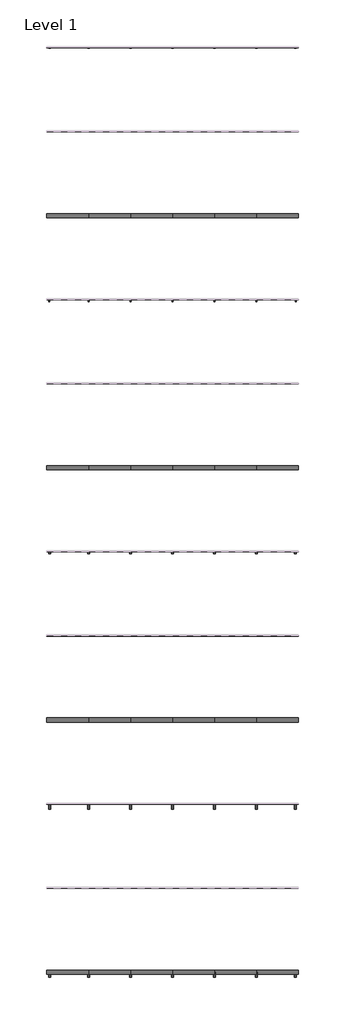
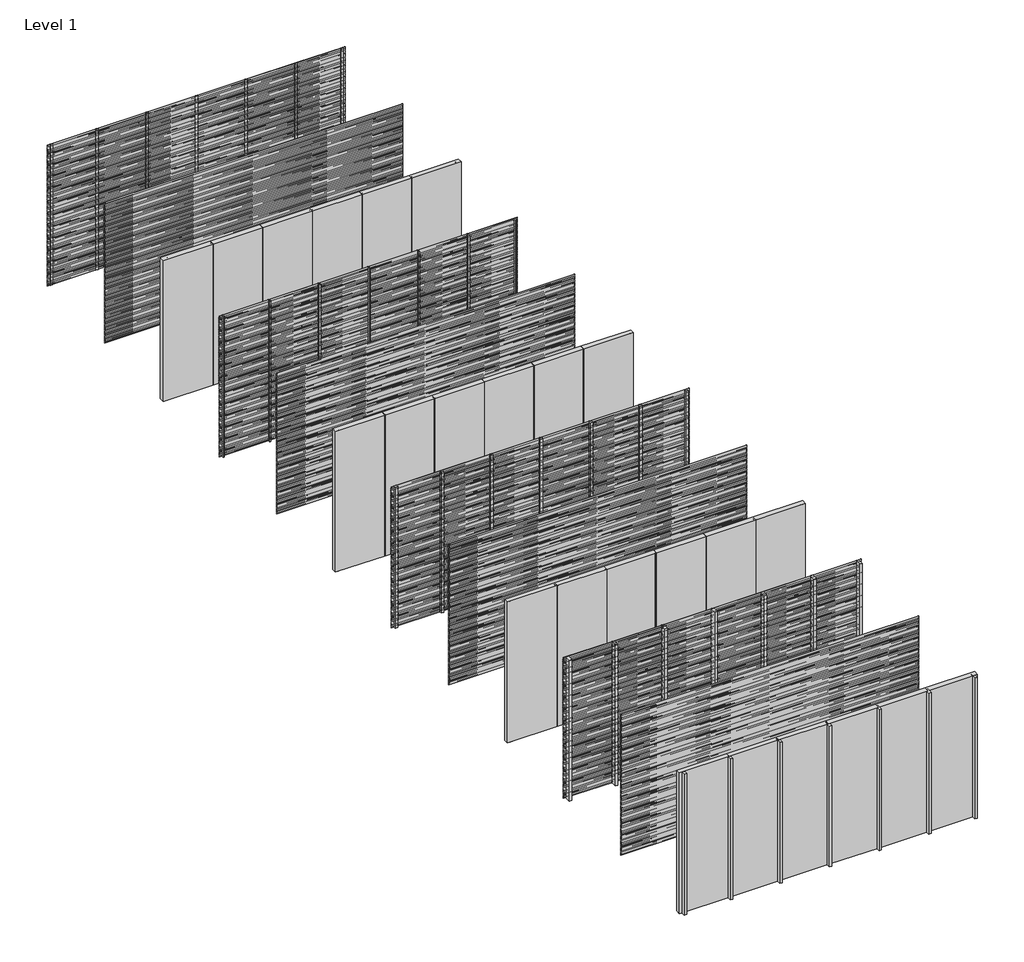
# One storey, part 1 of 25: 56 members, 52 plates, 18 proxies.
"""IFC4 building model written with IfcOpenShell, lengths in millimetres."""

from ifc_helpers import new_model, si_unit, frame, origin, origin_with_axes, place, context, project, spatial, polyline, outline, extrude, transform, mapped, element, save
from components import rectangular_mullion_bbbcbd30, rectangular_mullion_f8d4a220, rectangular_mullion_81aaf6fe, rectangular_mullion_6e08dc26, rectangular_mullion_75c52e10, rectangular_mullion_40295cf1, rectangular_mullion_7f158cb3, rectangular_mullion_66519e13, rectangular_mullion_5829b51c, rectangular_mullion_3b5b8a15, rectangular_mullion_81543344, rectangular_mullion_041a21c4, empty_system_panel_empty_e246a7f8, empty_system_panel_empty_98ea7a2b

model = new_model("IFC4")

# Units and contexts
model_context = context("Model", 3, world=origin())
ifc_project = project(units=[si_unit("LENGTHUNIT", "METRE", prefix="MILLI")], contexts=[model_context])

# Site, building, storey
site = spatial("IfcSite", under=ifc_project)
building = spatial("IfcBuilding", under=site)
storey = spatial("IfcBuildingStorey", under=building, Name="Level 1", Elevation=0.0)

# Proxies
placement = place(None, origin())
element("IfcBuildingElementProxy", 1, Name="Wall Sweeps", at=placement, inside=storey, context=model_context, shape_type="SweptSolid", body=[
    extrude(outline(polyline([(-19995.0, 2975.0), (-19995.0, 2963.942893), (-19976.0, 2948.0), (-19976.0, 2935.0), (-19997.0, 2952.6210923), (-19997.0, 2975.0), (-19995.0, 2975.0)])), frame((0.0, 0.0, 0.0), z_axis=(1.0, 0.0, 0.0), x_axis=(0.0, 1.0, 0.0)), (0.0, 0.0, 1.0), 6000.0),
])
element("IfcBuildingElementProxy", 2, Name="Wall Sweeps", at=placement, inside=storey, context=model_context, shape_type="SweptSolid", body=[
    extrude(outline(polyline([(-19995.0, 2940.0), (-19995.0, 2928.942893), (-19976.0, 2913.0), (-19976.0, 2900.0), (-19997.0, 2917.6210923), (-19997.0, 2940.0), (-19995.0, 2940.0)])), frame((0.0, 0.0, 0.0), z_axis=(1.0, 0.0, 0.0), x_axis=(0.0, 1.0, 0.0)), (0.0, 0.0, 1.0), 6000.0),
])
element("IfcBuildingElementProxy", 3, Name="Wall Sweeps", at=placement, inside=storey, context=model_context, shape_type="SweptSolid", body=[
    extrude(outline(polyline([(-19995.0, 2905.0), (-19995.0, 2893.942893), (-19976.0, 2878.0), (-19976.0, 2865.0), (-19997.0, 2882.6210923), (-19997.0, 2905.0), (-19995.0, 2905.0)])), frame((0.0, 0.0, 0.0), z_axis=(1.0, 0.0, 0.0), x_axis=(0.0, 1.0, 0.0)), (0.0, 0.0, 1.0), 6000.0),
])
element("IfcBuildingElementProxy", 4, Name="Wall Sweeps", at=placement, inside=storey, context=model_context, shape_type="SweptSolid", body=[
    extrude(outline(polyline([(-19995.0, 2870.0), (-19995.0, 2858.942893), (-19976.0, 2843.0), (-19976.0, 2830.0), (-19997.0, 2847.6210923), (-19997.0, 2870.0), (-19995.0, 2870.0)])), frame((0.0, 0.0, 0.0), z_axis=(1.0, 0.0, 0.0), x_axis=(0.0, 1.0, 0.0)), (0.0, 0.0, 1.0), 6000.0),
])
element("IfcBuildingElementProxy", 5, Name="Wall Sweeps", at=placement, inside=storey, context=model_context, shape_type="SweptSolid", body=[
    extrude(outline(polyline([(-19995.0, 2835.0), (-19995.0, 2823.942893), (-19976.0, 2808.0), (-19976.0, 2795.0), (-19997.0, 2812.6210923), (-19997.0, 2835.0), (-19995.0, 2835.0)])), frame((0.0, 0.0, 0.0), z_axis=(1.0, 0.0, 0.0), x_axis=(0.0, 1.0, 0.0)), (0.0, 0.0, 1.0), 6000.0),
])
element("IfcBuildingElementProxy", 6, Name="Wall Sweeps", at=placement, inside=storey, context=model_context, shape_type="SweptSolid", body=[
    extrude(outline(polyline([(-19995.0, 2800.0), (-19995.0, 2788.942893), (-19976.0, 2773.0), (-19976.0, 2760.0), (-19997.0, 2777.6210923), (-19997.0, 2800.0), (-19995.0, 2800.0)])), frame((0.0, 0.0, 0.0), z_axis=(1.0, 0.0, 0.0), x_axis=(0.0, 1.0, 0.0)), (0.0, 0.0, 1.0), 6000.0),
])
element("IfcBuildingElementProxy", 7, Name="Wall Sweeps", at=placement, inside=storey, context=model_context, shape_type="SweptSolid", body=[
    extrude(outline(polyline([(-19995.0, 2765.0), (-19995.0, 2753.942893), (-19976.0, 2738.0), (-19976.0, 2725.0), (-19997.0, 2742.6210923), (-19997.0, 2765.0), (-19995.0, 2765.0)])), frame((0.0, 0.0, 0.0), z_axis=(1.0, 0.0, 0.0), x_axis=(0.0, 1.0, 0.0)), (0.0, 0.0, 1.0), 6000.0),
])
element("IfcBuildingElementProxy", 8, Name="Wall Sweeps", at=placement, inside=storey, context=model_context, shape_type="SweptSolid", body=[
    extrude(outline(polyline([(-19995.0, 2730.0), (-19995.0, 2718.942893), (-19976.0, 2703.0), (-19976.0, 2690.0), (-19997.0, 2707.6210923), (-19997.0, 2730.0), (-19995.0, 2730.0)])), frame((0.0, 0.0, 0.0), z_axis=(1.0, 0.0, 0.0), x_axis=(0.0, 1.0, 0.0)), (0.0, 0.0, 1.0), 6000.0),
])
element("IfcBuildingElementProxy", 9, Name="Wall Sweeps", at=placement, inside=storey, context=model_context, shape_type="SweptSolid", body=[
    extrude(outline(polyline([(-19995.0, 2695.0), (-19995.0, 2683.942893), (-19976.0, 2668.0), (-19976.0, 2655.0), (-19997.0, 2672.6210923), (-19997.0, 2695.0), (-19995.0, 2695.0)])), frame((0.0, 0.0, 0.0), z_axis=(1.0, 0.0, 0.0), x_axis=(0.0, 1.0, 0.0)), (0.0, 0.0, 1.0), 6000.0),
])
element("IfcBuildingElementProxy", 10, Name="Wall Sweeps", at=placement, inside=storey, context=model_context, shape_type="SweptSolid", body=[
    extrude(outline(polyline([(-19995.0, 2660.0), (-19995.0, 2648.942893), (-19976.0, 2633.0), (-19976.0, 2620.0), (-19997.0, 2637.6210923), (-19997.0, 2660.0), (-19995.0, 2660.0)])), frame((0.0, 0.0, 0.0), z_axis=(1.0, 0.0, 0.0), x_axis=(0.0, 1.0, 0.0)), (0.0, 0.0, 1.0), 6000.0),
])
element("IfcBuildingElementProxy", 11, Name="Wall Sweeps", at=placement, inside=storey, context=model_context, shape_type="SweptSolid", body=[
    extrude(outline(polyline([(-19995.0, 2625.0), (-19995.0, 2613.942893), (-19976.0, 2598.0), (-19976.0, 2585.0), (-19997.0, 2602.6210923), (-19997.0, 2625.0), (-19995.0, 2625.0)])), frame((0.0, 0.0, 0.0), z_axis=(1.0, 0.0, 0.0), x_axis=(0.0, 1.0, 0.0)), (0.0, 0.0, 1.0), 6000.0),
])
element("IfcBuildingElementProxy", 12, Name="Wall Sweeps", at=placement, inside=storey, context=model_context, shape_type="SweptSolid", body=[
    extrude(outline(polyline([(-19995.0, 2590.0), (-19995.0, 2578.942893), (-19976.0, 2563.0), (-19976.0, 2550.0), (-19997.0, 2567.6210923), (-19997.0, 2590.0), (-19995.0, 2590.0)])), frame((0.0, 0.0, 0.0), z_axis=(1.0, 0.0, 0.0), x_axis=(0.0, 1.0, 0.0)), (0.0, 0.0, 1.0), 6000.0),
])
element("IfcBuildingElementProxy", 13, Name="Wall Sweeps", at=placement, inside=storey, context=model_context, shape_type="SweptSolid", body=[
    extrude(outline(polyline([(-19995.0, 2555.0), (-19995.0, 2543.942893), (-19976.0, 2528.0), (-19976.0, 2515.0), (-19997.0, 2532.6210923), (-19997.0, 2555.0), (-19995.0, 2555.0)])), frame((0.0, 0.0, 0.0), z_axis=(1.0, 0.0, 0.0), x_axis=(0.0, 1.0, 0.0)), (0.0, 0.0, 1.0), 6000.0),
])
element("IfcBuildingElementProxy", 14, Name="Wall Sweeps", at=placement, inside=storey, context=model_context, shape_type="SweptSolid", body=[
    extrude(outline(polyline([(-19995.0, 2520.0), (-19995.0, 2508.942893), (-19976.0, 2493.0), (-19976.0, 2480.0), (-19997.0, 2497.6210923), (-19997.0, 2520.0), (-19995.0, 2520.0)])), frame((0.0, 0.0, 0.0), z_axis=(1.0, 0.0, 0.0), x_axis=(0.0, 1.0, 0.0)), (0.0, 0.0, 1.0), 6000.0),
])
element("IfcBuildingElementProxy", 15, Name="Wall Sweeps", at=placement, inside=storey, context=model_context, shape_type="SweptSolid", body=[
    extrude(outline(polyline([(-19995.0, 2485.0), (-19995.0, 2473.942893), (-19976.0, 2458.0), (-19976.0, 2445.0), (-19997.0, 2462.6210923), (-19997.0, 2485.0), (-19995.0, 2485.0)])), frame((0.0, 0.0, 0.0), z_axis=(1.0, 0.0, 0.0), x_axis=(0.0, 1.0, 0.0)), (0.0, 0.0, 1.0), 6000.0),
])
element("IfcBuildingElementProxy", 16, Name="Wall Sweeps", at=placement, inside=storey, context=model_context, shape_type="SweptSolid", body=[
    extrude(outline(polyline([(-19995.0, 2450.0), (-19995.0, 2438.942893), (-19976.0, 2423.0), (-19976.0, 2410.0), (-19997.0, 2427.6210923), (-19997.0, 2450.0), (-19995.0, 2450.0)])), frame((0.0, 0.0, 0.0), z_axis=(1.0, 0.0, 0.0), x_axis=(0.0, 1.0, 0.0)), (0.0, 0.0, 1.0), 6000.0),
])
element("IfcBuildingElementProxy", 17, Name="Wall Sweeps", at=placement, inside=storey, context=model_context, shape_type="SweptSolid", body=[
    extrude(outline(polyline([(-19995.0, 2415.0), (-19995.0, 2403.942893), (-19976.0, 2388.0), (-19976.0, 2375.0), (-19997.0, 2392.6210923), (-19997.0, 2415.0), (-19995.0, 2415.0)])), frame((0.0, 0.0, 0.0), z_axis=(1.0, 0.0, 0.0), x_axis=(0.0, 1.0, 0.0)), (0.0, 0.0, 1.0), 6000.0),
])
element("IfcBuildingElementProxy", 18, Name="Wall Sweeps", at=placement, inside=storey, context=model_context, shape_type="SweptSolid", body=[
    extrude(outline(polyline([(-19995.0, 2380.0), (-19995.0, 2368.942893), (-19976.0, 2353.0), (-19976.0, 2340.0), (-19997.0, 2357.6210923), (-19997.0, 2380.0), (-19995.0, 2380.0)])), frame((0.0, 0.0, 0.0), z_axis=(1.0, 0.0, 0.0), x_axis=(0.0, 1.0, 0.0)), (0.0, 0.0, 1.0), 6000.0),
])

# Members
rectangular_mullion_shape = rectangular_mullion_bbbcbd30(model_context)
element("IfcMember", 19, ObjectType="Rectangular Mullion : RSen_21_CWM_support profile - 50x12 - left_gen_duco projects", at=placement, inside=storey, context=model_context, shape_type="MappedRepresentation", body=[
    mapped(rectangular_mullion_shape, transform((0.0, 0.0, 0.0), x_axis=(-1.0, 0.0, 0.0), y_axis=(0.0, 1.0, 0.0), z_axis=(0.0, 0.0, -1.0))),
])
element("IfcMember", 20, ObjectType="Rectangular Mullion : RSen_21_CWM_support profile - 50x12 - left_gen_duco projects", at=placement, inside=storey, context=model_context, shape_type="MappedRepresentation", body=[
    mapped(rectangular_mullion_shape, transform((0.0, -4000.0, 0.0), x_axis=(-1.0, 0.0, 0.0), y_axis=(0.0, 1.0, 0.0), z_axis=(0.0, 0.0, -1.0))),
])
rectangular_mullion_2_shape = rectangular_mullion_f8d4a220(model_context)
element("IfcMember", 21, ObjectType="Rectangular Mullion : RSen_21_CWM_support profile - 50x12 - right_gen_duco projects", at=placement, inside=storey, context=model_context, shape_type="MappedRepresentation", body=[
    mapped(rectangular_mullion_2_shape, transform((6000.0, 0.0, 3000.0), x_axis=(1.0, 0.0, 0.0), y_axis=(0.0, 1.0, 0.0), z_axis=(0.0, 0.0, 1.0))),
])
element("IfcMember", 22, ObjectType="Rectangular Mullion : RSen_21_CWM_support profile - 50x12 - right_gen_duco projects", at=placement, inside=storey, context=model_context, shape_type="MappedRepresentation", body=[
    mapped(rectangular_mullion_2_shape, transform((6000.0, -4000.0, 3000.0), x_axis=(1.0, 0.0, 0.0), y_axis=(0.0, 1.0, 0.0), z_axis=(0.0, 0.0, 1.0))),
])
rectangular_mullion_3_shape = rectangular_mullion_81aaf6fe(model_context)
element("IfcMember", 23, ObjectType="Rectangular Mullion : RSen_21_CWM_support profile - 21x50 Multi - left_gen_duco projects", at=placement, inside=storey, context=model_context, shape_type="MappedRepresentation", body=[
    mapped(rectangular_mullion_3_shape, transform((0.0, -6000.0, 0.0), x_axis=(-1.0, 0.0, 0.0), y_axis=(0.0, 1.0, 0.0), z_axis=(0.0, 0.0, -1.0))),
])
element("IfcMember", 24, ObjectType="Rectangular Mullion : RSen_21_CWM_support profile - 21x50 Multi - left_gen_duco projects", at=placement, inside=storey, context=model_context, shape_type="MappedRepresentation", body=[
    mapped(rectangular_mullion_3_shape, transform((0.0, -10000.0, 0.0), x_axis=(-1.0, 0.0, 0.0), y_axis=(0.0, 1.0, 0.0), z_axis=(0.0, 0.0, -1.0))),
])
rectangular_mullion_4_shape = rectangular_mullion_6e08dc26(model_context)
element("IfcMember", 25, ObjectType="Rectangular Mullion : RSen_21_CWM_support profile - 21x50 Multi - right_gen_duco projects", at=placement, inside=storey, context=model_context, shape_type="MappedRepresentation", body=[
    mapped(rectangular_mullion_4_shape, transform((6000.0, -6000.0, 3000.0), x_axis=(1.0, 0.0, 0.0), y_axis=(0.0, 1.0, 0.0), z_axis=(0.0, 0.0, 1.0))),
])
element("IfcMember", 26, ObjectType="Rectangular Mullion : RSen_21_CWM_support profile - 21x50 Multi - right_gen_duco projects", at=placement, inside=storey, context=model_context, shape_type="MappedRepresentation", body=[
    mapped(rectangular_mullion_4_shape, transform((6000.0, -10000.0, 3000.0), x_axis=(1.0, 0.0, 0.0), y_axis=(0.0, 1.0, 0.0), z_axis=(0.0, 0.0, 1.0))),
])
rectangular_mullion_5_shape = rectangular_mullion_75c52e10(model_context)
element("IfcMember", 27, ObjectType="Rectangular Mullion : RSen_21_CWM_support profile - 50x50 - left_gen_duco projects", at=placement, inside=storey, context=model_context, shape_type="MappedRepresentation", body=[
    mapped(rectangular_mullion_5_shape, transform((0.0, -12000.0, 0.0), x_axis=(-1.0, 0.0, 0.0), y_axis=(0.0, 1.0, 0.0), z_axis=(0.0, 0.0, -1.0))),
])
element("IfcMember", 28, ObjectType="Rectangular Mullion : RSen_21_CWM_support profile - 50x50 - left_gen_duco projects", at=placement, inside=storey, context=model_context, shape_type="MappedRepresentation", body=[
    mapped(rectangular_mullion_5_shape, transform((0.0, -16000.0, 0.0), x_axis=(-1.0, 0.0, 0.0), y_axis=(0.0, 1.0, 0.0), z_axis=(0.0, 0.0, -1.0))),
])
rectangular_mullion_6_shape = rectangular_mullion_40295cf1(model_context)
element("IfcMember", 29, ObjectType="Rectangular Mullion : RSen_21_CWM_support profile - 50x50 - right_gen_duco projects", at=placement, inside=storey, context=model_context, shape_type="MappedRepresentation", body=[
    mapped(rectangular_mullion_6_shape, transform((6000.0, -12000.0, 3000.0), x_axis=(1.0, 0.0, 0.0), y_axis=(0.0, 1.0, 0.0), z_axis=(0.0, 0.0, 1.0))),
])
element("IfcMember", 30, ObjectType="Rectangular Mullion : RSen_21_CWM_support profile - 50x50 - right_gen_duco projects", at=placement, inside=storey, context=model_context, shape_type="MappedRepresentation", body=[
    mapped(rectangular_mullion_6_shape, transform((6000.0, -16000.0, 3000.0), x_axis=(1.0, 0.0, 0.0), y_axis=(0.0, 1.0, 0.0), z_axis=(0.0, 0.0, 1.0))),
])
rectangular_mullion_7_shape = rectangular_mullion_7f158cb3(model_context)
element("IfcMember", 31, ObjectType="Rectangular Mullion : RSen_21_CWM_support profile - 50x12_gen_duco projects", at=placement, inside=storey, context=model_context, shape_type="MappedRepresentation", body=[
    mapped(rectangular_mullion_7_shape, transform((5000.0, 0.0, 0.0), x_axis=(-1.0, 0.0, 0.0), y_axis=(0.0, 1.0, 0.0), z_axis=(0.0, 0.0, -1.0))),
])
element("IfcMember", 32, ObjectType="Rectangular Mullion : RSen_21_CWM_support profile - 50x12_gen_duco projects", at=placement, inside=storey, context=model_context, shape_type="MappedRepresentation", body=[
    mapped(rectangular_mullion_7_shape, transform((4000.0, 0.0, 0.0), x_axis=(-1.0, 0.0, 0.0), y_axis=(0.0, 1.0, 0.0), z_axis=(0.0, 0.0, -1.0))),
])
element("IfcMember", 33, ObjectType="Rectangular Mullion : RSen_21_CWM_support profile - 50x12_gen_duco projects", at=placement, inside=storey, context=model_context, shape_type="MappedRepresentation", body=[
    mapped(rectangular_mullion_7_shape, transform((3000.0, 0.0, 0.0), x_axis=(-1.0, 0.0, 0.0), y_axis=(0.0, 1.0, 0.0), z_axis=(0.0, 0.0, -1.0))),
])
element("IfcMember", 34, ObjectType="Rectangular Mullion : RSen_21_CWM_support profile - 50x12_gen_duco projects", at=placement, inside=storey, context=model_context, shape_type="MappedRepresentation", body=[
    mapped(rectangular_mullion_7_shape, transform((2000.0, 0.0, 0.0), x_axis=(-1.0, 0.0, 0.0), y_axis=(0.0, 1.0, 0.0), z_axis=(0.0, 0.0, -1.0))),
])
element("IfcMember", 35, ObjectType="Rectangular Mullion : RSen_21_CWM_support profile - 50x12_gen_duco projects", at=placement, inside=storey, context=model_context, shape_type="MappedRepresentation", body=[
    mapped(rectangular_mullion_7_shape, transform((1000.0, 0.0, 0.0), x_axis=(-1.0, 0.0, 0.0), y_axis=(0.0, 1.0, 0.0), z_axis=(0.0, 0.0, -1.0))),
])
element("IfcMember", 36, ObjectType="Rectangular Mullion : RSen_21_CWM_support profile - 50x12_gen_duco projects", at=placement, inside=storey, context=model_context, shape_type="MappedRepresentation", body=[
    mapped(rectangular_mullion_7_shape, transform((5000.0, -4000.0, 0.0), x_axis=(-1.0, 0.0, 0.0), y_axis=(0.0, 1.0, 0.0), z_axis=(0.0, 0.0, -1.0))),
])
element("IfcMember", 37, ObjectType="Rectangular Mullion : RSen_21_CWM_support profile - 50x12_gen_duco projects", at=placement, inside=storey, context=model_context, shape_type="MappedRepresentation", body=[
    mapped(rectangular_mullion_7_shape, transform((4000.0, -4000.0, 0.0), x_axis=(-1.0, 0.0, 0.0), y_axis=(0.0, 1.0, 0.0), z_axis=(0.0, 0.0, -1.0))),
])
element("IfcMember", 38, ObjectType="Rectangular Mullion : RSen_21_CWM_support profile - 50x12_gen_duco projects", at=placement, inside=storey, context=model_context, shape_type="MappedRepresentation", body=[
    mapped(rectangular_mullion_7_shape, transform((3000.0, -4000.0, 0.0), x_axis=(-1.0, 0.0, 0.0), y_axis=(0.0, 1.0, 0.0), z_axis=(0.0, 0.0, -1.0))),
])
element("IfcMember", 39, ObjectType="Rectangular Mullion : RSen_21_CWM_support profile - 50x12_gen_duco projects", at=placement, inside=storey, context=model_context, shape_type="MappedRepresentation", body=[
    mapped(rectangular_mullion_7_shape, transform((2000.0, -4000.0, 0.0), x_axis=(-1.0, 0.0, 0.0), y_axis=(0.0, 1.0, 0.0), z_axis=(0.0, 0.0, -1.0))),
])
element("IfcMember", 40, ObjectType="Rectangular Mullion : RSen_21_CWM_support profile - 50x12_gen_duco projects", at=placement, inside=storey, context=model_context, shape_type="MappedRepresentation", body=[
    mapped(rectangular_mullion_7_shape, transform((1000.0, -4000.0, 0.0), x_axis=(-1.0, 0.0, 0.0), y_axis=(0.0, 1.0, 0.0), z_axis=(0.0, 0.0, -1.0))),
])
rectangular_mullion_8_shape = rectangular_mullion_66519e13(model_context)
element("IfcMember", 41, ObjectType="Rectangular Mullion : RSen_21_CWM_support profile - 21x50 Multi_gen_duco projects", at=placement, inside=storey, context=model_context, shape_type="MappedRepresentation", body=[
    mapped(rectangular_mullion_8_shape, transform((5000.0, -6000.0, 0.0), x_axis=(-1.0, 0.0, 0.0), y_axis=(0.0, 1.0, 0.0), z_axis=(0.0, 0.0, -1.0))),
])
element("IfcMember", 42, ObjectType="Rectangular Mullion : RSen_21_CWM_support profile - 21x50 Multi_gen_duco projects", at=placement, inside=storey, context=model_context, shape_type="MappedRepresentation", body=[
    mapped(rectangular_mullion_8_shape, transform((4000.0, -6000.0, 0.0), x_axis=(-1.0, 0.0, 0.0), y_axis=(0.0, 1.0, 0.0), z_axis=(0.0, 0.0, -1.0))),
])
element("IfcMember", 43, ObjectType="Rectangular Mullion : RSen_21_CWM_support profile - 21x50 Multi_gen_duco projects", at=placement, inside=storey, context=model_context, shape_type="MappedRepresentation", body=[
    mapped(rectangular_mullion_8_shape, transform((3000.0, -6000.0, 0.0), x_axis=(-1.0, 0.0, 0.0), y_axis=(0.0, 1.0, 0.0), z_axis=(0.0, 0.0, -1.0))),
])
element("IfcMember", 44, ObjectType="Rectangular Mullion : RSen_21_CWM_support profile - 21x50 Multi_gen_duco projects", at=placement, inside=storey, context=model_context, shape_type="MappedRepresentation", body=[
    mapped(rectangular_mullion_8_shape, transform((2000.0, -6000.0, 0.0), x_axis=(-1.0, 0.0, 0.0), y_axis=(0.0, 1.0, 0.0), z_axis=(0.0, 0.0, -1.0))),
])
element("IfcMember", 45, ObjectType="Rectangular Mullion : RSen_21_CWM_support profile - 21x50 Multi_gen_duco projects", at=placement, inside=storey, context=model_context, shape_type="MappedRepresentation", body=[
    mapped(rectangular_mullion_8_shape, transform((1000.0, -6000.0, 0.0), x_axis=(-1.0, 0.0, 0.0), y_axis=(0.0, 1.0, 0.0), z_axis=(0.0, 0.0, -1.0))),
])
element("IfcMember", 46, ObjectType="Rectangular Mullion : RSen_21_CWM_support profile - 21x50 Multi_gen_duco projects", at=placement, inside=storey, context=model_context, shape_type="MappedRepresentation", body=[
    mapped(rectangular_mullion_8_shape, transform((5000.0, -10000.0, 0.0), x_axis=(-1.0, 0.0, 0.0), y_axis=(0.0, 1.0, 0.0), z_axis=(0.0, 0.0, -1.0))),
])
element("IfcMember", 47, ObjectType="Rectangular Mullion : RSen_21_CWM_support profile - 21x50 Multi_gen_duco projects", at=placement, inside=storey, context=model_context, shape_type="MappedRepresentation", body=[
    mapped(rectangular_mullion_8_shape, transform((4000.0, -10000.0, 0.0), x_axis=(-1.0, 0.0, 0.0), y_axis=(0.0, 1.0, 0.0), z_axis=(0.0, 0.0, -1.0))),
])
element("IfcMember", 48, ObjectType="Rectangular Mullion : RSen_21_CWM_support profile - 21x50 Multi_gen_duco projects", at=placement, inside=storey, context=model_context, shape_type="MappedRepresentation", body=[
    mapped(rectangular_mullion_8_shape, transform((3000.0, -10000.0, 0.0), x_axis=(-1.0, 0.0, 0.0), y_axis=(0.0, 1.0, 0.0), z_axis=(0.0, 0.0, -1.0))),
])
element("IfcMember", 49, ObjectType="Rectangular Mullion : RSen_21_CWM_support profile - 21x50 Multi_gen_duco projects", at=placement, inside=storey, context=model_context, shape_type="MappedRepresentation", body=[
    mapped(rectangular_mullion_8_shape, transform((2000.0, -10000.0, 0.0), x_axis=(-1.0, 0.0, 0.0), y_axis=(0.0, 1.0, 0.0), z_axis=(0.0, 0.0, -1.0))),
])
element("IfcMember", 50, ObjectType="Rectangular Mullion : RSen_21_CWM_support profile - 21x50 Multi_gen_duco projects", at=placement, inside=storey, context=model_context, shape_type="MappedRepresentation", body=[
    mapped(rectangular_mullion_8_shape, transform((1000.0, -10000.0, 0.0), x_axis=(-1.0, 0.0, 0.0), y_axis=(0.0, 1.0, 0.0), z_axis=(0.0, 0.0, -1.0))),
])
rectangular_mullion_9_shape = rectangular_mullion_5829b51c(model_context)
element("IfcMember", 51, ObjectType="Rectangular Mullion : RSen_21_CWM_support profile - 50x50_gen_duco projects", at=placement, inside=storey, context=model_context, shape_type="MappedRepresentation", body=[
    mapped(rectangular_mullion_9_shape, transform((5000.0, -12000.0, 0.0), x_axis=(-1.0, 0.0, 0.0), y_axis=(0.0, 1.0, 0.0), z_axis=(0.0, 0.0, -1.0))),
])
element("IfcMember", 52, ObjectType="Rectangular Mullion : RSen_21_CWM_support profile - 50x50_gen_duco projects", at=placement, inside=storey, context=model_context, shape_type="MappedRepresentation", body=[
    mapped(rectangular_mullion_9_shape, transform((4000.0, -12000.0, 0.0), x_axis=(-1.0, 0.0, 0.0), y_axis=(0.0, 1.0, 0.0), z_axis=(0.0, 0.0, -1.0))),
])
element("IfcMember", 53, ObjectType="Rectangular Mullion : RSen_21_CWM_support profile - 50x50_gen_duco projects", at=placement, inside=storey, context=model_context, shape_type="MappedRepresentation", body=[
    mapped(rectangular_mullion_9_shape, transform((3000.0, -12000.0, 0.0), x_axis=(-1.0, 0.0, 0.0), y_axis=(0.0, 1.0, 0.0), z_axis=(0.0, 0.0, -1.0))),
])
element("IfcMember", 54, ObjectType="Rectangular Mullion : RSen_21_CWM_support profile - 50x50_gen_duco projects", at=placement, inside=storey, context=model_context, shape_type="MappedRepresentation", body=[
    mapped(rectangular_mullion_9_shape, transform((2000.0, -12000.0, 0.0), x_axis=(-1.0, 0.0, 0.0), y_axis=(0.0, 1.0, 0.0), z_axis=(0.0, 0.0, -1.0))),
])
element("IfcMember", 55, ObjectType="Rectangular Mullion : RSen_21_CWM_support profile - 50x50_gen_duco projects", at=placement, inside=storey, context=model_context, shape_type="MappedRepresentation", body=[
    mapped(rectangular_mullion_9_shape, transform((1000.0, -12000.0, 0.0), x_axis=(-1.0, 0.0, 0.0), y_axis=(0.0, 1.0, 0.0), z_axis=(0.0, 0.0, -1.0))),
])
element("IfcMember", 56, ObjectType="Rectangular Mullion : RSen_21_CWM_support profile - 50x50_gen_duco projects", at=placement, inside=storey, context=model_context, shape_type="MappedRepresentation", body=[
    mapped(rectangular_mullion_9_shape, transform((5000.0, -16000.0, 0.0), x_axis=(-1.0, 0.0, 0.0), y_axis=(0.0, 1.0, 0.0), z_axis=(0.0, 0.0, -1.0))),
])
element("IfcMember", 57, ObjectType="Rectangular Mullion : RSen_21_CWM_support profile - 50x50_gen_duco projects", at=placement, inside=storey, context=model_context, shape_type="MappedRepresentation", body=[
    mapped(rectangular_mullion_9_shape, transform((4000.0, -16000.0, 0.0), x_axis=(-1.0, 0.0, 0.0), y_axis=(0.0, 1.0, 0.0), z_axis=(0.0, 0.0, -1.0))),
])
element("IfcMember", 58, ObjectType="Rectangular Mullion : RSen_21_CWM_support profile - 50x50_gen_duco projects", at=placement, inside=storey, context=model_context, shape_type="MappedRepresentation", body=[
    mapped(rectangular_mullion_9_shape, transform((3000.0, -16000.0, 0.0), x_axis=(-1.0, 0.0, 0.0), y_axis=(0.0, 1.0, 0.0), z_axis=(0.0, 0.0, -1.0))),
])
element("IfcMember", 59, ObjectType="Rectangular Mullion : RSen_21_CWM_support profile - 50x50_gen_duco projects", at=placement, inside=storey, context=model_context, shape_type="MappedRepresentation", body=[
    mapped(rectangular_mullion_9_shape, transform((2000.0, -16000.0, 0.0), x_axis=(-1.0, 0.0, 0.0), y_axis=(0.0, 1.0, 0.0), z_axis=(0.0, 0.0, -1.0))),
])
element("IfcMember", 60, ObjectType="Rectangular Mullion : RSen_21_CWM_support profile - 50x50_gen_duco projects", at=placement, inside=storey, context=model_context, shape_type="MappedRepresentation", body=[
    mapped(rectangular_mullion_9_shape, transform((1000.0, -16000.0, 0.0), x_axis=(-1.0, 0.0, 0.0), y_axis=(0.0, 1.0, 0.0), z_axis=(0.0, 0.0, -1.0))),
])
rectangular_mullion_10_shape = rectangular_mullion_3b5b8a15(model_context)
element("IfcMember", 61, ObjectType="Rectangular Mullion : RSen_21_CWM_support profile - 50x125_gen_duco projects", at=placement, inside=storey, context=model_context, shape_type="MappedRepresentation", body=[
    mapped(rectangular_mullion_10_shape, transform((1000.0000002, -18000.0, 0.0), x_axis=(1.0, 0.0, 0.0), y_axis=(0.0, -1.0, 0.0), z_axis=(0.0, 0.0, -1.0))),
])
element("IfcMember", 62, ObjectType="Rectangular Mullion : RSen_21_CWM_support profile - 50x125_gen_duco projects", at=placement, inside=storey, context=model_context, shape_type="MappedRepresentation", body=[
    mapped(rectangular_mullion_10_shape, transform((2000.0000001, -18000.0, 0.0), x_axis=(1.0, 0.0, 0.0), y_axis=(0.0, -1.0, 0.0), z_axis=(0.0, 0.0, -1.0))),
])
element("IfcMember", 63, ObjectType="Rectangular Mullion : RSen_21_CWM_support profile - 50x125_gen_duco projects", at=placement, inside=storey, context=model_context, shape_type="MappedRepresentation", body=[
    mapped(rectangular_mullion_10_shape, transform((3000.0, -18000.0, 0.0), x_axis=(1.0, 0.0, 0.0), y_axis=(0.0, -1.0, 0.0), z_axis=(0.0, 0.0, -1.0))),
])
element("IfcMember", 64, ObjectType="Rectangular Mullion : RSen_21_CWM_support profile - 50x125_gen_duco projects", at=placement, inside=storey, context=model_context, shape_type="MappedRepresentation", body=[
    mapped(rectangular_mullion_10_shape, transform((3999.9999999, -18000.0, 0.0), x_axis=(1.0, 0.0, 0.0), y_axis=(0.0, -1.0, 0.0), z_axis=(0.0, 0.0, -1.0))),
])
element("IfcMember", 65, ObjectType="Rectangular Mullion : RSen_21_CWM_support profile - 50x125_gen_duco projects", at=placement, inside=storey, context=model_context, shape_type="MappedRepresentation", body=[
    mapped(rectangular_mullion_10_shape, transform((4999.9999998, -18000.0, 0.0), x_axis=(1.0, 0.0, 0.0), y_axis=(0.0, -1.0, 0.0), z_axis=(0.0, 0.0, -1.0))),
])
element("IfcMember", 66, ObjectType="Rectangular Mullion : RSen_21_CWM_support profile - 50x125_gen_duco projects", at=placement, inside=storey, context=model_context, shape_type="MappedRepresentation", body=[
    mapped(rectangular_mullion_10_shape, transform((1000.0000002, -22000.0, 0.0), x_axis=(1.0, 0.0, 0.0), y_axis=(0.0, -1.0, 0.0), z_axis=(0.0, 0.0, -1.0))),
])
element("IfcMember", 67, ObjectType="Rectangular Mullion : RSen_21_CWM_support profile - 50x125_gen_duco projects", at=placement, inside=storey, context=model_context, shape_type="MappedRepresentation", body=[
    mapped(rectangular_mullion_10_shape, transform((2000.0000001, -22000.0, 0.0), x_axis=(1.0, 0.0, 0.0), y_axis=(0.0, -1.0, 0.0), z_axis=(0.0, 0.0, -1.0))),
])
element("IfcMember", 68, ObjectType="Rectangular Mullion : RSen_21_CWM_support profile - 50x125_gen_duco projects", at=placement, inside=storey, context=model_context, shape_type="MappedRepresentation", body=[
    mapped(rectangular_mullion_10_shape, transform((3000.0, -22000.0, 0.0), x_axis=(1.0, 0.0, 0.0), y_axis=(0.0, -1.0, 0.0), z_axis=(0.0, 0.0, -1.0))),
])
element("IfcMember", 69, ObjectType="Rectangular Mullion : RSen_21_CWM_support profile - 50x125_gen_duco projects", at=placement, inside=storey, context=model_context, shape_type="MappedRepresentation", body=[
    mapped(rectangular_mullion_10_shape, transform((3999.9999999, -22000.0, 0.0), x_axis=(1.0, 0.0, 0.0), y_axis=(0.0, -1.0, 0.0), z_axis=(0.0, 0.0, -1.0))),
])
element("IfcMember", 70, ObjectType="Rectangular Mullion : RSen_21_CWM_support profile - 50x125_gen_duco projects", at=placement, inside=storey, context=model_context, shape_type="MappedRepresentation", body=[
    mapped(rectangular_mullion_10_shape, transform((4999.9999998, -22000.0, 0.0), x_axis=(1.0, 0.0, 0.0), y_axis=(0.0, -1.0, 0.0), z_axis=(0.0, 0.0, -1.0))),
])
rectangular_mullion_11_shape = rectangular_mullion_81543344(model_context)
element("IfcMember", 71, ObjectType="Rectangular Mullion : RSen_21_CWM_support profile - 50x125 - left_gen_duco projects", at=placement, inside=storey, context=model_context, shape_type="MappedRepresentation", body=[
    mapped(rectangular_mullion_11_shape, transform((6000.0, -18000.0, 0.0), x_axis=(1.0, 0.0, 0.0), y_axis=(0.0, -1.0, 0.0), z_axis=(0.0, 0.0, -1.0))),
])
element("IfcMember", 72, ObjectType="Rectangular Mullion : RSen_21_CWM_support profile - 50x125 - left_gen_duco projects", at=placement, inside=storey, context=model_context, shape_type="MappedRepresentation", body=[
    mapped(rectangular_mullion_11_shape, transform((6000.0, -22000.0, 0.0), x_axis=(1.0, 0.0, 0.0), y_axis=(0.0, -1.0, 0.0), z_axis=(0.0, 0.0, -1.0))),
])
rectangular_mullion_12_shape = rectangular_mullion_041a21c4(model_context)
element("IfcMember", 73, ObjectType="Rectangular Mullion : RSen_21_CWM_support profile - 50x125 - right_gen_duco projects", at=placement, inside=storey, context=model_context, shape_type="MappedRepresentation", body=[
    mapped(rectangular_mullion_12_shape, transform((0.0, -18000.0, 3000.0), x_axis=(-1.0, 0.0, 0.0), y_axis=(0.0, -1.0, 0.0), z_axis=(0.0, 0.0, 1.0))),
])
element("IfcMember", 74, ObjectType="Rectangular Mullion : RSen_21_CWM_support profile - 50x125 - right_gen_duco projects", at=placement, inside=storey, context=model_context, shape_type="MappedRepresentation", body=[
    mapped(rectangular_mullion_12_shape, transform((0.0, -22000.0, 3000.0), x_axis=(-1.0, 0.0, 0.0), y_axis=(0.0, -1.0, 0.0), z_axis=(0.0, 0.0, 1.0))),
])

# Plates
element("IfcPlate", 75, ObjectType="RSen_21_WA_louvre blade classic W 20Z_gen_duco projects", at=placement, inside=storey, context=model_context, shape_type="SweptSolid", body=[
    extrude(outline(polyline([(0.0, 1.0), (1000.0, 1.0), (1000.0, -1.0), (0.0, -1.0), (0.0, 1.0)])), origin_with_axes(), (0.0, 0.0, 1.0), 3000.0),
])
element("IfcPlate", 76, ObjectType="RSen_21_WA_louvre blade classic W 20Z_gen_duco projects", at=placement, inside=storey, context=model_context, shape_type="SweptSolid", body=[
    extrude(outline(polyline([(1000.0, 1.0), (2000.0, 1.0), (2000.0, -1.0), (1000.0, -1.0), (1000.0, 1.0)])), origin_with_axes(), (0.0, 0.0, 1.0), 3000.0),
])
element("IfcPlate", 77, ObjectType="RSen_21_WA_louvre blade classic W 20Z_gen_duco projects", at=placement, inside=storey, context=model_context, shape_type="SweptSolid", body=[
    extrude(outline(polyline([(2000.0, 1.0), (3000.0, 1.0), (3000.0, -1.0), (2000.0, -1.0), (2000.0, 1.0)])), origin_with_axes(), (0.0, 0.0, 1.0), 3000.0),
])
element("IfcPlate", 78, ObjectType="RSen_21_WA_louvre blade classic W 20Z_gen_duco projects", at=placement, inside=storey, context=model_context, shape_type="SweptSolid", body=[
    extrude(outline(polyline([(3000.0, 1.0), (4000.0, 1.0), (4000.0, -1.0), (3000.0, -1.0), (3000.0, 1.0)])), origin_with_axes(), (0.0, 0.0, 1.0), 3000.0),
])
element("IfcPlate", 79, ObjectType="RSen_21_WA_louvre blade classic W 20Z_gen_duco projects", at=placement, inside=storey, context=model_context, shape_type="SweptSolid", body=[
    extrude(outline(polyline([(4000.0, 1.0), (5000.0, 1.0), (5000.0, -1.0), (4000.0, -1.0), (4000.0, 1.0)])), origin_with_axes(), (0.0, 0.0, 1.0), 3000.0),
])
element("IfcPlate", 80, ObjectType="RSen_21_WA_louvre blade classic W 20Z_gen_duco projects", at=placement, inside=storey, context=model_context, shape_type="SweptSolid", body=[
    extrude(outline(polyline([(5000.0, 1.0), (6000.0, 1.0), (6000.0, -1.0), (5000.0, -1.0), (5000.0, 1.0)])), origin_with_axes(), (0.0, 0.0, 1.0), 3000.0),
])
element("IfcPlate", 81, ObjectType="RSen_21_WA_louvre blade classic W 20Z_gen_duco projects", at=placement, inside=storey, context=model_context, shape_type="SweptSolid", body=[
    extrude(outline(polyline([(0.0, -1999.0), (6000.0, -1999.0), (6000.0, -2001.0), (0.0, -2001.0), (0.0, -1999.0)])), origin_with_axes(), (0.0, 0.0, 1.0), 3000.0),
])
element("IfcPlate", 82, ObjectType="RSen_21_WA_louvre blade classic W 20Z_gen_duco projects", at=placement, inside=storey, context=model_context, shape_type="SweptSolid", body=[
    extrude(outline(polyline([(0.0, -5999.0), (1000.0, -5999.0), (1000.0, -6001.0), (0.0, -6001.0), (0.0, -5999.0)])), origin_with_axes(), (0.0, 0.0, 1.0), 3000.0),
])
element("IfcPlate", 83, ObjectType="RSen_21_WA_louvre blade classic W 20Z_gen_duco projects", at=placement, inside=storey, context=model_context, shape_type="SweptSolid", body=[
    extrude(outline(polyline([(1000.0, -5999.0), (2000.0, -5999.0), (2000.0, -6001.0), (1000.0, -6001.0), (1000.0, -5999.0)])), origin_with_axes(), (0.0, 0.0, 1.0), 3000.0),
])
element("IfcPlate", 84, ObjectType="RSen_21_WA_louvre blade classic W 20Z_gen_duco projects", at=placement, inside=storey, context=model_context, shape_type="SweptSolid", body=[
    extrude(outline(polyline([(2000.0, -5999.0), (3000.0, -5999.0), (3000.0, -6001.0), (2000.0, -6001.0), (2000.0, -5999.0)])), origin_with_axes(), (0.0, 0.0, 1.0), 3000.0),
])
element("IfcPlate", 85, ObjectType="RSen_21_WA_louvre blade classic W 20Z_gen_duco projects", at=placement, inside=storey, context=model_context, shape_type="SweptSolid", body=[
    extrude(outline(polyline([(3000.0, -5999.0), (4000.0, -5999.0), (4000.0, -6001.0), (3000.0, -6001.0), (3000.0, -5999.0)])), origin_with_axes(), (0.0, 0.0, 1.0), 3000.0),
])
element("IfcPlate", 86, ObjectType="RSen_21_WA_louvre blade classic W 20Z_gen_duco projects", at=placement, inside=storey, context=model_context, shape_type="SweptSolid", body=[
    extrude(outline(polyline([(4000.0, -5999.0), (5000.0, -5999.0), (5000.0, -6001.0), (4000.0, -6001.0), (4000.0, -5999.0)])), origin_with_axes(), (0.0, 0.0, 1.0), 3000.0),
])
element("IfcPlate", 87, ObjectType="RSen_21_WA_louvre blade classic W 20Z_gen_duco projects", at=placement, inside=storey, context=model_context, shape_type="SweptSolid", body=[
    extrude(outline(polyline([(5000.0, -5999.0), (6000.0, -5999.0), (6000.0, -6001.0), (5000.0, -6001.0), (5000.0, -5999.0)])), origin_with_axes(), (0.0, 0.0, 1.0), 3000.0),
])
element("IfcPlate", 88, ObjectType="RSen_21_WA_louvre blade classic W 20Z_gen_duco projects", at=placement, inside=storey, context=model_context, shape_type="SweptSolid", body=[
    extrude(outline(polyline([(0.0, -7999.0), (6000.0, -7999.0), (6000.0, -8001.0), (0.0, -8001.0), (0.0, -7999.0)])), origin_with_axes(), (0.0, 0.0, 1.0), 3000.0),
])
element("IfcPlate", 89, ObjectType="RSen_21_WA_louvre blade classic W 20Z_gen_duco projects", at=placement, inside=storey, context=model_context, shape_type="SweptSolid", body=[
    extrude(outline(polyline([(0.0, -11999.0), (1000.0, -11999.0), (1000.0, -12001.0), (0.0, -12001.0), (0.0, -11999.0)])), origin_with_axes(), (0.0, 0.0, 1.0), 3000.0),
])
element("IfcPlate", 90, ObjectType="RSen_21_WA_louvre blade classic W 20Z_gen_duco projects", at=placement, inside=storey, context=model_context, shape_type="SweptSolid", body=[
    extrude(outline(polyline([(1000.0, -11999.0), (2000.0, -11999.0), (2000.0, -12001.0), (1000.0, -12001.0), (1000.0, -11999.0)])), origin_with_axes(), (0.0, 0.0, 1.0), 3000.0),
])
element("IfcPlate", 91, ObjectType="RSen_21_WA_louvre blade classic W 20Z_gen_duco projects", at=placement, inside=storey, context=model_context, shape_type="SweptSolid", body=[
    extrude(outline(polyline([(2000.0, -11999.0), (3000.0, -11999.0), (3000.0, -12001.0), (2000.0, -12001.0), (2000.0, -11999.0)])), origin_with_axes(), (0.0, 0.0, 1.0), 3000.0),
])
element("IfcPlate", 92, ObjectType="RSen_21_WA_louvre blade classic W 20Z_gen_duco projects", at=placement, inside=storey, context=model_context, shape_type="SweptSolid", body=[
    extrude(outline(polyline([(3000.0, -11999.0), (4000.0, -11999.0), (4000.0, -12001.0), (3000.0, -12001.0), (3000.0, -11999.0)])), origin_with_axes(), (0.0, 0.0, 1.0), 3000.0),
])
element("IfcPlate", 93, ObjectType="RSen_21_WA_louvre blade classic W 20Z_gen_duco projects", at=placement, inside=storey, context=model_context, shape_type="SweptSolid", body=[
    extrude(outline(polyline([(4000.0, -11999.0), (5000.0, -11999.0), (5000.0, -12001.0), (4000.0, -12001.0), (4000.0, -11999.0)])), origin_with_axes(), (0.0, 0.0, 1.0), 3000.0),
])
element("IfcPlate", 94, ObjectType="RSen_21_WA_louvre blade classic W 20Z_gen_duco projects", at=placement, inside=storey, context=model_context, shape_type="SweptSolid", body=[
    extrude(outline(polyline([(5000.0, -11999.0), (6000.0, -11999.0), (6000.0, -12001.0), (5000.0, -12001.0), (5000.0, -11999.0)])), origin_with_axes(), (0.0, 0.0, 1.0), 3000.0),
])
element("IfcPlate", 95, ObjectType="RSen_21_WA_louvre blade classic W 20Z_gen_duco projects", at=placement, inside=storey, context=model_context, shape_type="SweptSolid", body=[
    extrude(outline(polyline([(0.0, -13999.0), (6000.0, -13999.0), (6000.0, -14001.0), (0.0, -14001.0), (0.0, -13999.0)])), origin_with_axes(), (0.0, 0.0, 1.0), 3000.0),
])
element("IfcPlate", 96, ObjectType="RSen_21_WA_louvre blade classic W 20Z_gen_duco projects", at=placement, inside=storey, context=model_context, shape_type="SweptSolid", body=[
    extrude(outline(polyline([(6000.0, -18001.0), (4999.9999998, -18001.0), (4999.9999998, -17999.0), (6000.0, -17999.0), (6000.0, -18001.0)])), origin_with_axes(), (0.0, 0.0, 1.0), 3000.0),
])
element("IfcPlate", 97, ObjectType="RSen_21_WA_louvre blade classic W 20Z_gen_duco projects", at=placement, inside=storey, context=model_context, shape_type="SweptSolid", body=[
    extrude(outline(polyline([(4999.9999998, -18001.0), (3999.9999999, -18001.0), (3999.9999999, -17999.0), (4999.9999998, -17999.0), (4999.9999998, -18001.0)])), origin_with_axes(), (0.0, 0.0, 1.0), 3000.0),
])
element("IfcPlate", 98, ObjectType="RSen_21_WA_louvre blade classic W 20Z_gen_duco projects", at=placement, inside=storey, context=model_context, shape_type="SweptSolid", body=[
    extrude(outline(polyline([(3999.9999999, -18001.0), (3000.0, -18001.0), (3000.0, -17999.0), (3999.9999999, -17999.0), (3999.9999999, -18001.0)])), origin_with_axes(), (0.0, 0.0, 1.0), 3000.0),
])
element("IfcPlate", 99, ObjectType="RSen_21_WA_louvre blade classic W 20Z_gen_duco projects", at=placement, inside=storey, context=model_context, shape_type="SweptSolid", body=[
    extrude(outline(polyline([(3000.0, -18001.0), (2000.0000001, -18001.0), (2000.0000001, -17999.0), (3000.0, -17999.0), (3000.0, -18001.0)])), origin_with_axes(), (0.0, 0.0, 1.0), 3000.0),
])
element("IfcPlate", 100, ObjectType="RSen_21_WA_louvre blade classic W 20Z_gen_duco projects", at=placement, inside=storey, context=model_context, shape_type="SweptSolid", body=[
    extrude(outline(polyline([(2000.0000001, -18001.0), (1000.0000002, -18001.0), (1000.0000002, -17999.0), (2000.0000001, -17999.0), (2000.0000001, -18001.0)])), origin_with_axes(), (0.0, 0.0, 1.0), 3000.0),
])
element("IfcPlate", 101, ObjectType="RSen_21_WA_louvre blade classic W 20Z_gen_duco projects", at=placement, inside=storey, context=model_context, shape_type="SweptSolid", body=[
    extrude(outline(polyline([(1000.0000002, -18001.0), (0.0, -18001.0), (0.0, -17999.0), (1000.0000002, -17999.0), (1000.0000002, -18001.0)])), origin_with_axes(), (0.0, 0.0, 1.0), 3000.0),
])
element("IfcPlate", 102, ObjectType="RSen_21_WA_louvre blade classic W 20Z_gen_duco projects", at=placement, inside=storey, context=model_context, shape_type="SweptSolid", body=[
    extrude(outline(polyline([(6000.0, -20001.0), (0.0, -20001.0), (0.0, -19999.0), (6000.0, -19999.0), (6000.0, -20001.0)])), origin_with_axes(), (0.0, 0.0, 1.0), 3000.0),
])
empty_system_panel_empty_shape = empty_system_panel_empty_e246a7f8(model_context)
element("IfcPlate", 103, ObjectType="Empty System Panel : Empty", at=placement, inside=storey, context=model_context, shape_type="MappedRepresentation", body=[
    mapped(empty_system_panel_empty_shape, transform((5500.0, -4000.0, 0.0), x_axis=(-1.0, 0.0, 0.0), y_axis=(0.0, -1.0, 0.0), z_axis=(0.0, 0.0, 1.0))),
])
element("IfcPlate", 104, ObjectType="Empty System Panel : Empty", at=placement, inside=storey, context=model_context, shape_type="MappedRepresentation", body=[
    mapped(empty_system_panel_empty_shape, transform((5500.0, -10000.0, 0.0), x_axis=(-1.0, 0.0, 0.0), y_axis=(0.0, -1.0, 0.0), z_axis=(0.0, 0.0, 1.0))),
])
element("IfcPlate", 105, ObjectType="Empty System Panel : Empty", at=placement, inside=storey, context=model_context, shape_type="MappedRepresentation", body=[
    mapped(empty_system_panel_empty_shape, transform((5500.0, -16000.0, 0.0), x_axis=(-1.0, 0.0, 0.0), y_axis=(0.0, -1.0, 0.0), z_axis=(0.0, 0.0, 1.0))),
])
element("IfcPlate", 106, ObjectType="Empty System Panel : Empty", at=placement, inside=storey, context=model_context, shape_type="MappedRepresentation", body=[
    mapped(empty_system_panel_empty_shape, transform((4500.0, -4000.0, 0.0), x_axis=(-1.0, 0.0, 0.0), y_axis=(0.0, -1.0, 0.0), z_axis=(0.0, 0.0, 1.0))),
])
element("IfcPlate", 107, ObjectType="Empty System Panel : Empty", at=placement, inside=storey, context=model_context, shape_type="MappedRepresentation", body=[
    mapped(empty_system_panel_empty_shape, transform((3500.0, -4000.0, 0.0), x_axis=(-1.0, 0.0, 0.0), y_axis=(0.0, -1.0, 0.0), z_axis=(0.0, 0.0, 1.0))),
])
element("IfcPlate", 108, ObjectType="Empty System Panel : Empty", at=placement, inside=storey, context=model_context, shape_type="MappedRepresentation", body=[
    mapped(empty_system_panel_empty_shape, transform((2500.0, -4000.0, 0.0), x_axis=(-1.0, 0.0, 0.0), y_axis=(0.0, -1.0, 0.0), z_axis=(0.0, 0.0, 1.0))),
])
element("IfcPlate", 109, ObjectType="Empty System Panel : Empty", at=placement, inside=storey, context=model_context, shape_type="MappedRepresentation", body=[
    mapped(empty_system_panel_empty_shape, transform((1500.0, -4000.0, 0.0), x_axis=(-1.0, 0.0, 0.0), y_axis=(0.0, -1.0, 0.0), z_axis=(0.0, 0.0, 1.0))),
])
element("IfcPlate", 110, ObjectType="Empty System Panel : Empty", at=placement, inside=storey, context=model_context, shape_type="MappedRepresentation", body=[
    mapped(empty_system_panel_empty_shape, transform((500.0, -4000.0, 0.0), x_axis=(-1.0, 0.0, 0.0), y_axis=(0.0, -1.0, 0.0), z_axis=(0.0, 0.0, 1.0))),
])
element("IfcPlate", 111, ObjectType="Empty System Panel : Empty", at=placement, inside=storey, context=model_context, shape_type="MappedRepresentation", body=[
    mapped(empty_system_panel_empty_shape, transform((4500.0, -10000.0, 0.0), x_axis=(-1.0, 0.0, 0.0), y_axis=(0.0, -1.0, 0.0), z_axis=(0.0, 0.0, 1.0))),
])
element("IfcPlate", 112, ObjectType="Empty System Panel : Empty", at=placement, inside=storey, context=model_context, shape_type="MappedRepresentation", body=[
    mapped(empty_system_panel_empty_shape, transform((3500.0, -10000.0, 0.0), x_axis=(-1.0, 0.0, 0.0), y_axis=(0.0, -1.0, 0.0), z_axis=(0.0, 0.0, 1.0))),
])
element("IfcPlate", 113, ObjectType="Empty System Panel : Empty", at=placement, inside=storey, context=model_context, shape_type="MappedRepresentation", body=[
    mapped(empty_system_panel_empty_shape, transform((2500.0, -10000.0, 0.0), x_axis=(-1.0, 0.0, 0.0), y_axis=(0.0, -1.0, 0.0), z_axis=(0.0, 0.0, 1.0))),
])
element("IfcPlate", 114, ObjectType="Empty System Panel : Empty", at=placement, inside=storey, context=model_context, shape_type="MappedRepresentation", body=[
    mapped(empty_system_panel_empty_shape, transform((1500.0, -10000.0, 0.0), x_axis=(-1.0, 0.0, 0.0), y_axis=(0.0, -1.0, 0.0), z_axis=(0.0, 0.0, 1.0))),
])
element("IfcPlate", 115, ObjectType="Empty System Panel : Empty", at=placement, inside=storey, context=model_context, shape_type="MappedRepresentation", body=[
    mapped(empty_system_panel_empty_shape, transform((500.0, -10000.0, 0.0), x_axis=(-1.0, 0.0, 0.0), y_axis=(0.0, -1.0, 0.0), z_axis=(0.0, 0.0, 1.0))),
])
element("IfcPlate", 116, ObjectType="Empty System Panel : Empty", at=placement, inside=storey, context=model_context, shape_type="MappedRepresentation", body=[
    mapped(empty_system_panel_empty_shape, transform((4500.0, -16000.0, 0.0), x_axis=(-1.0, 0.0, 0.0), y_axis=(0.0, -1.0, 0.0), z_axis=(0.0, 0.0, 1.0))),
])
element("IfcPlate", 117, ObjectType="Empty System Panel : Empty", at=placement, inside=storey, context=model_context, shape_type="MappedRepresentation", body=[
    mapped(empty_system_panel_empty_shape, transform((3500.0, -16000.0, 0.0), x_axis=(-1.0, 0.0, 0.0), y_axis=(0.0, -1.0, 0.0), z_axis=(0.0, 0.0, 1.0))),
])
element("IfcPlate", 118, ObjectType="Empty System Panel : Empty", at=placement, inside=storey, context=model_context, shape_type="MappedRepresentation", body=[
    mapped(empty_system_panel_empty_shape, transform((2500.0, -16000.0, 0.0), x_axis=(-1.0, 0.0, 0.0), y_axis=(0.0, -1.0, 0.0), z_axis=(0.0, 0.0, 1.0))),
])
element("IfcPlate", 119, ObjectType="Empty System Panel : Empty", at=placement, inside=storey, context=model_context, shape_type="MappedRepresentation", body=[
    mapped(empty_system_panel_empty_shape, transform((1500.0, -16000.0, 0.0), x_axis=(-1.0, 0.0, 0.0), y_axis=(0.0, -1.0, 0.0), z_axis=(0.0, 0.0, 1.0))),
])
element("IfcPlate", 120, ObjectType="Empty System Panel : Empty", at=placement, inside=storey, context=model_context, shape_type="MappedRepresentation", body=[
    mapped(empty_system_panel_empty_shape, transform((500.0, -16000.0, 0.0), x_axis=(-1.0, 0.0, 0.0), y_axis=(0.0, -1.0, 0.0), z_axis=(0.0, 0.0, 1.0))),
])
empty_system_panel_empty_2_shape = empty_system_panel_empty_98ea7a2b(model_context)
element("IfcPlate", 121, ObjectType="Empty System Panel : Empty", at=placement, inside=storey, context=model_context, shape_type="MappedRepresentation", body=[
    mapped(empty_system_panel_empty_2_shape, transform((500.0000001, -22000.0, 0.0), x_axis=(1.0, 0.0, 0.0), y_axis=(0.0, 1.0, 0.0), z_axis=(0.0, 0.0, 1.0))),
])
element("IfcPlate", 122, ObjectType="Empty System Panel : Empty", at=placement, inside=storey, context=model_context, shape_type="MappedRepresentation", body=[
    mapped(empty_system_panel_empty_2_shape, transform((1500.0000002, -22000.0, 0.0), x_axis=(1.0, 0.0, 0.0), y_axis=(0.0, 1.0, 0.0), z_axis=(0.0, 0.0, 1.0))),
])
element("IfcPlate", 123, ObjectType="Empty System Panel : Empty", at=placement, inside=storey, context=model_context, shape_type="MappedRepresentation", body=[
    mapped(empty_system_panel_empty_2_shape, transform((2500.0000001, -22000.0, 0.0), x_axis=(1.0, 0.0, 0.0), y_axis=(0.0, 1.0, 0.0), z_axis=(0.0, 0.0, 1.0))),
])
element("IfcPlate", 124, ObjectType="Empty System Panel : Empty", at=placement, inside=storey, context=model_context, shape_type="MappedRepresentation", body=[
    mapped(empty_system_panel_empty_2_shape, transform((3499.9999999, -22000.0, 0.0), x_axis=(1.0, 0.0, 0.0), y_axis=(0.0, 1.0, 0.0), z_axis=(0.0, 0.0, 1.0))),
])
element("IfcPlate", 125, ObjectType="Empty System Panel : Empty", at=placement, inside=storey, context=model_context, shape_type="MappedRepresentation", body=[
    mapped(empty_system_panel_empty_2_shape, transform((4499.9999998, -22000.0, 0.0), x_axis=(1.0, 0.0, 0.0), y_axis=(0.0, 1.0, 0.0), z_axis=(0.0, 0.0, 1.0))),
])
element("IfcPlate", 126, ObjectType="Empty System Panel : Empty", at=placement, inside=storey, context=model_context, shape_type="MappedRepresentation", body=[
    mapped(empty_system_panel_empty_2_shape, transform((5499.9999999, -22000.0, 0.0), x_axis=(1.0, 0.0, 0.0), y_axis=(0.0, 1.0, 0.0), z_axis=(0.0, 0.0, 1.0))),
])

save(model, "model.ifc")
